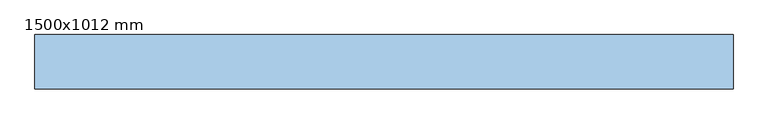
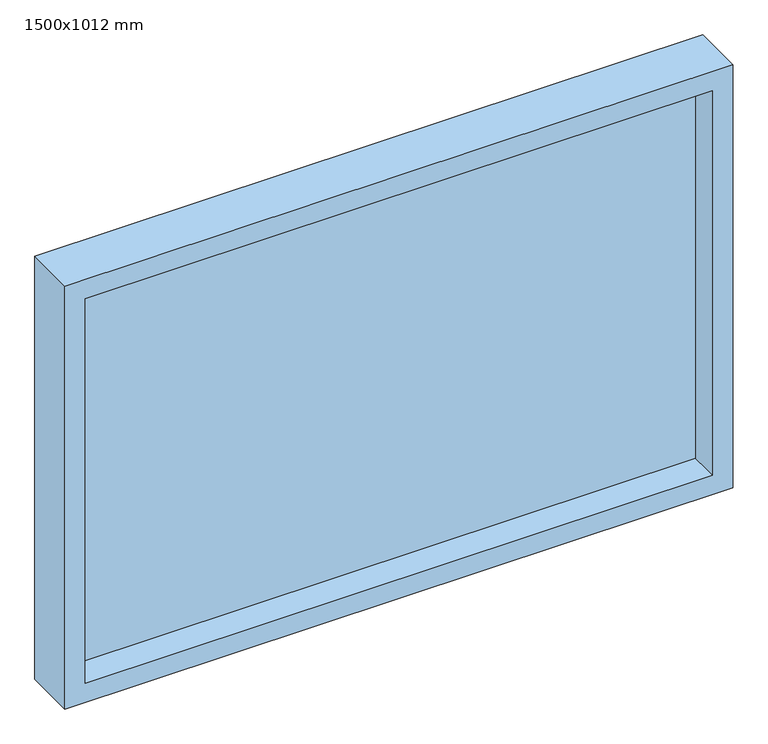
"""IFC4 building model written with IfcOpenShell, lengths in millimetres: window geometry, V_BS-Fals_Sandwich_530mm : 1500x1012 mm."""

from ifc_helpers import new_model, si_unit, frame, origin, place, context, project, spatial, polyline, outline, extrude, source, transform, mapped, element, save


def window_1500x1012_mm_38aa6ed5(model_context):
    return source(origin(), model_context, "Body", "SweptSolid", [
        extrude(outline(polyline([(681.0, 177.0), (681.0, 155.0), (-705.0, 155.0), (-705.0, 177.0), (681.0, 177.0)])), frame((0.0, 0.0, 657.0), z_axis=(0.0, 0.0, 1.0), x_axis=(1.0, 0.0, 0.0)), (0.0, 0.0, 1.0), 898.0),
        extrude(outline(polyline([(612.0, -750.0), (612.0, 726.0), (1600.0, 726.0), (1600.0, -750.0), (612.0, -750.0)]), holes=[polyline([(1555.0, -705.0), (1555.0, 681.0), (657.0, 681.0), (657.0, -705.0), (1555.0, -705.0)])]), frame((0.0, 90.0, 0.0), z_axis=(0.0, 1.0, 0.0), x_axis=(0.0, 0.0, 1.0)), (0.0, 0.0, 1.0), 115.0),
    ])


if __name__ == "__main__":
    model = new_model("IFC4")
    model_context = context("Model", 3, world=origin())
    ifc_project = project(units=[si_unit("LENGTHUNIT", "METRE", prefix="MILLI")], contexts=[model_context])
    site = spatial("IfcSite", under=ifc_project)
    building = spatial("IfcBuilding", under=site)
    placement = place(None, origin())
    window_1500x1012_mm_shape = window_1500x1012_mm_38aa6ed5(model_context)
    element("IfcWindow", 1, ObjectType="V_BS-Fals_Sandwich_530mm : 1500x1012 mm", at=placement, inside=building, context=model_context, shape_type="MappedRepresentation", body=[
        mapped(window_1500x1012_mm_shape, transform((0.0, 0.0, 0.0), x_axis=(1.0, 0.0, 0.0), y_axis=(0.0, 1.0, 0.0), z_axis=(0.0, 0.0, 1.0))),
    ])
    save(model, "model.ifc")
